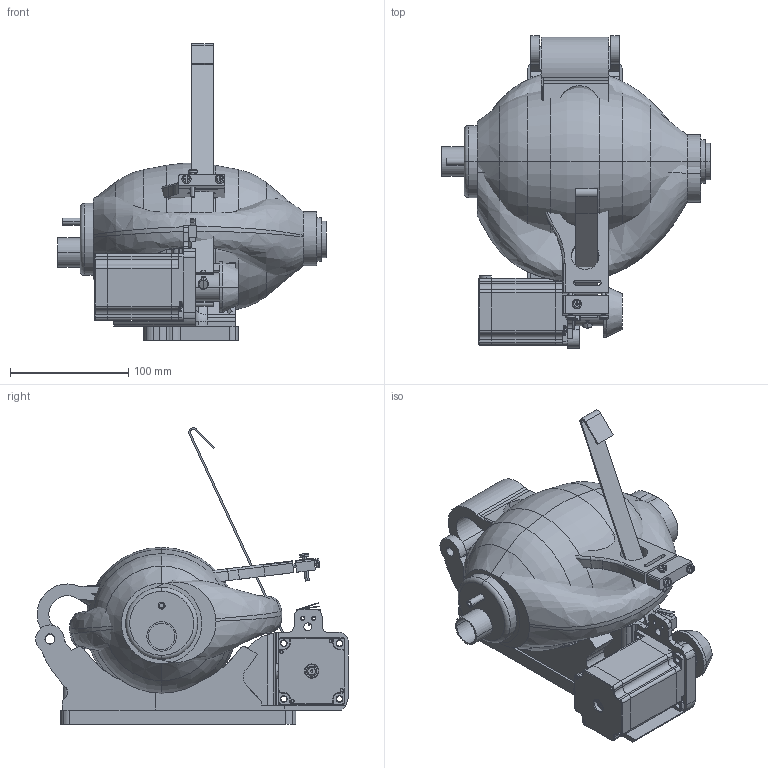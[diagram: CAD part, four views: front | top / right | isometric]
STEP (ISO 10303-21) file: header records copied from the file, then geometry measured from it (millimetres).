
FILE_DESCRIPTION(('STEP AP214'),'1');
FILE_NAME('rees31.stp','2020-03-24T03:58:07',(' '),(' '),'Spatial InterOp 3D',' ',' ');
FILE_SCHEMA(('AUTOMOTIVE_DESIGN { 1 0 10303 214 1 1 1 1 }'));
Length unit declared in the file: metre
Products named in the file (23): bag; comprimida; expandida; bag2; picos; pico superior; pico inferior; rees31; brazo2; nema23; polea2; tornillo polea; correa; tapa; tornillo m3; polea; brazo; brazo Geometry; tornillo fijacion correa; tornillo endstop; cuna2; tabla; switch
Assembly tree (23 placements, depth 4):
  rees31
    bag
      comprimida
      expandida
        bag2
      picos
        pico superior
        pico inferior
    brazo2
      nema23
      polea2
        tornillo polea
        correa
        tapa
        tornillo m3
        polea
    brazo
      brazo Geometry
      tornillo fijacion correa  x2
      tornillo endstop
    cuna2
    tabla
    switch
Bounding box: 227 x 264.3 x 250.74 mm (x, y, z)
Volume: 3347447.8 mm3; surface area: 394129.4 mm2
Topology: 24 solids, 24 shells, 1289 faces, 3279 edges, 2059 vertices
Faces by surface type: cylinder 458, plane 445, bspline 171, torus 131, cone 73, revolution 10, offset 1
Entity records: 69649 total; most frequent: CARTESIAN_POINT 28456, ORIENTED_EDGE 6408, DIRECTION 6364, EDGE_CURVE 3204, AXIS2_PLACEMENT_3D 2476, VERTEX_POINT 2008, EDGE_LOOP 1412, LINE 1401
